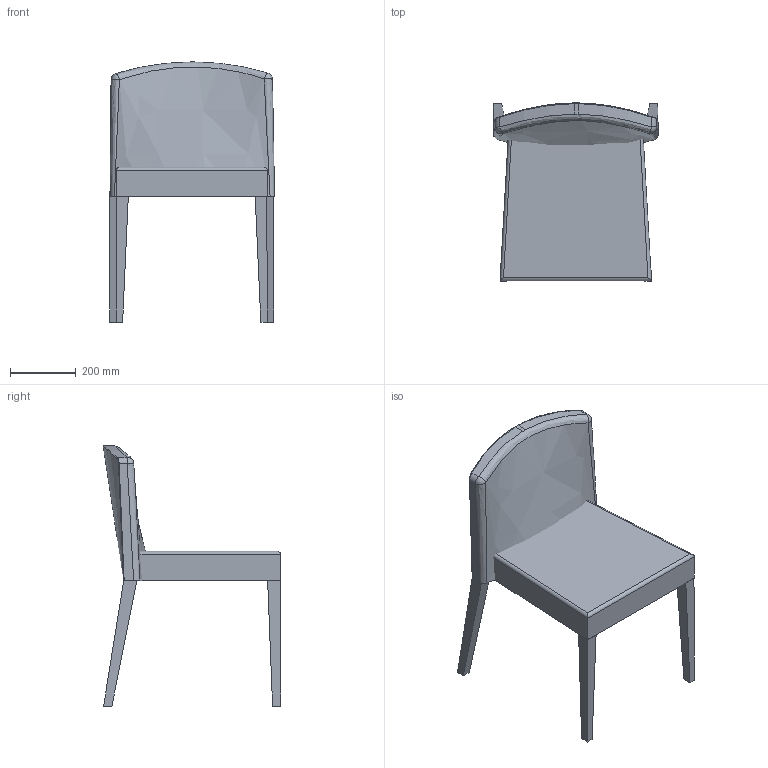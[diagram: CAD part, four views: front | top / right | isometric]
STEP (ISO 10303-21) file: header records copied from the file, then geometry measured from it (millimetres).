
FILE_DESCRIPTION(/* description */ (''),/* implementation_level */ '2;1');
FILE_NAME(/* name */ '\\kiancnnas\Kian 2D Drawings\17-18-CONTRACT\CADY\3D\Cady chair.stp',/* time_stamp */ '2017-07-27T09:30:53+08:00',/* author */ ('Administrator'),/* organization */ (''),/* preprocessor_version */ 'ST-DEVELOPER v16.1',/* originating_system */ 'Autodesk Inventor 2016',/* authorisation */ '');
FILE_SCHEMA (('AUTOMOTIVE_DESIGN { 1 0 10303 214 3 1 1 }'));
Length unit declared in the file: millimetre
Products named in the file (1): Cady  chair
Bounding box: 501.42 x 539.52 x 790 mm (x, y, z)
Volume: 31654718.9 mm3; surface area: 1311557.8 mm2
Topology: 8 solids, 8 shells, 64 faces, 132 edges, 84 vertices
Faces by surface type: plane 46, cylinder 8, bspline 8, sphere 2
Entity records: 2163 total; most frequent: CARTESIAN_POINT 833, ORIENTED_EDGE 264, DIRECTION 238, EDGE_CURVE 132, LINE 98, VECTOR 98, VERTEX_POINT 84, AXIS2_PLACEMENT_3D 70
